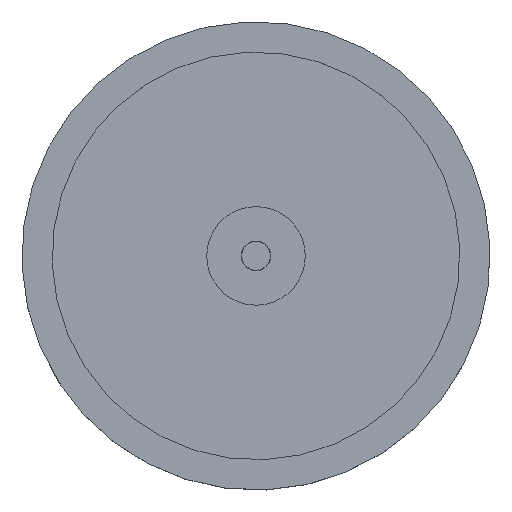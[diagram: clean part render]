
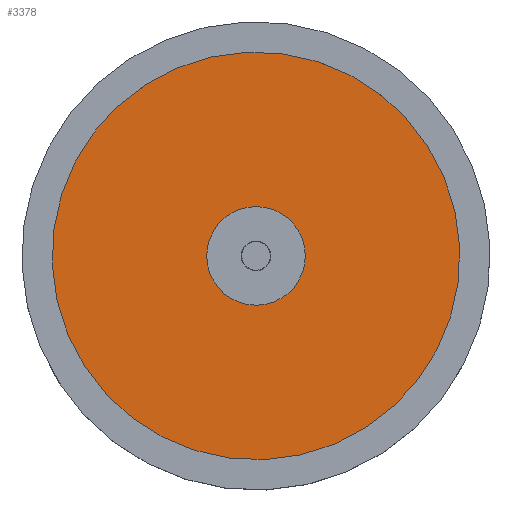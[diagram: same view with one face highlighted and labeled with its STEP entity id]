
A CAD part, top view. The second image highlights one B-rep face of the part: STEP entity #3378.
In plain terms, the highlighted planar face has unit normal (0, 0, 1) as drawn and (0, -1, 0) by its records, which use the part's own axes.
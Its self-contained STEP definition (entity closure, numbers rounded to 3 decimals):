
#25 = CARTESIAN_POINT ( 'NONE',  ( 0., 0., 0. ) ) ;
#184 = FACE_BOUND ( 'NONE', #5722, .T. ) ;
#348 = CARTESIAN_POINT ( 'NONE',  ( 0., 0., 0. ) ) ;
#469 = FACE_OUTER_BOUND ( 'NONE', #3868, .T. ) ;
#472 = EDGE_CURVE ( 'NONE', #2468, #2082, #513, .T. ) ;
#513 = CIRCLE ( 'NONE', #2999, 85. ) ;
#668 = CARTESIAN_POINT ( 'NONE',  ( 0., 0., 5.25 ) ) ;
#760 = AXIS2_PLACEMENT_3D ( 'NONE', #348, #1297, #860 ) ;
#824 = DIRECTION ( 'NONE',  ( 0., 0., 1. ) ) ;
#827 = EDGE_CURVE ( 'NONE', #2776, #828, #2310, .T. ) ;
#828 = VERTEX_POINT ( 'NONE', #1166 ) ;
#860 = DIRECTION ( 'NONE',  ( 0., 0., 1. ) ) ;
#934 = CARTESIAN_POINT ( 'NONE',  ( 0., 0., 0. ) ) ;
#956 = DIRECTION ( 'NONE',  ( 0., 1., 0. ) ) ;
#1073 = AXIS2_PLACEMENT_3D ( 'NONE', #2887, #5016, #824 ) ;
#1166 = CARTESIAN_POINT ( 'NONE',  ( 0., 0., -5.25 ) ) ;
#1297 = DIRECTION ( 'NONE',  ( 0., 1., 0. ) ) ;
#1390 = ORIENTED_EDGE ( 'NONE', *, *, #472, .F. ) ;
#1411 = PLANE ( 'NONE',  #5307 ) ;
#1671 = DIRECTION ( 'NONE',  ( 0., 0., 1. ) ) ;
#2082 = VERTEX_POINT ( 'NONE', #5807 ) ;
#2235 = AXIS2_PLACEMENT_3D ( 'NONE', #5859, #4462, #1671 ) ;
#2310 = CIRCLE ( 'NONE', #2235, 5.25 ) ;
#2447 = ORIENTED_EDGE ( 'NONE', *, *, #4030, .F. ) ;
#2468 = VERTEX_POINT ( 'NONE', #3296 ) ;
#2776 = VERTEX_POINT ( 'NONE', #668 ) ;
#2887 = CARTESIAN_POINT ( 'NONE',  ( 0., 0., 0. ) ) ;
#2999 = AXIS2_PLACEMENT_3D ( 'NONE', #25, #4173, #4014 ) ;
#3118 = CIRCLE ( 'NONE', #1073, 85. ) ;
#3296 = CARTESIAN_POINT ( 'NONE',  ( 0., 0., -85. ) ) ;
#3378 = ADVANCED_FACE ( 'NONE', ( #469, #184 ), #1411, .F. ) ;
#3868 = EDGE_LOOP ( 'NONE', ( #1390, #2447 ) ) ;
#4014 = DIRECTION ( 'NONE',  ( 0., 0., 1. ) ) ;
#4030 = EDGE_CURVE ( 'NONE', #2082, #2468, #3118, .T. ) ;
#4067 = EDGE_CURVE ( 'NONE', #828, #2776, #4863, .T. ) ;
#4153 = DIRECTION ( 'NONE',  ( 0., 0., 1. ) ) ;
#4173 = DIRECTION ( 'NONE',  ( 0., 1., 0. ) ) ;
#4462 = DIRECTION ( 'NONE',  ( 0., 1., 0. ) ) ;
#4863 = CIRCLE ( 'NONE', #760, 5.25 ) ;
#5016 = DIRECTION ( 'NONE',  ( 0., 1., 0. ) ) ;
#5307 = AXIS2_PLACEMENT_3D ( 'NONE', #934, #956, #4153 ) ;
#5564 = ORIENTED_EDGE ( 'NONE', *, *, #4067, .T. ) ;
#5664 = ORIENTED_EDGE ( 'NONE', *, *, #827, .T. ) ;
#5722 = EDGE_LOOP ( 'NONE', ( #5564, #5664 ) ) ;
#5807 = CARTESIAN_POINT ( 'NONE',  ( 0., 0., 85. ) ) ;
#5859 = CARTESIAN_POINT ( 'NONE',  ( 0., 0., 0. ) ) ;
